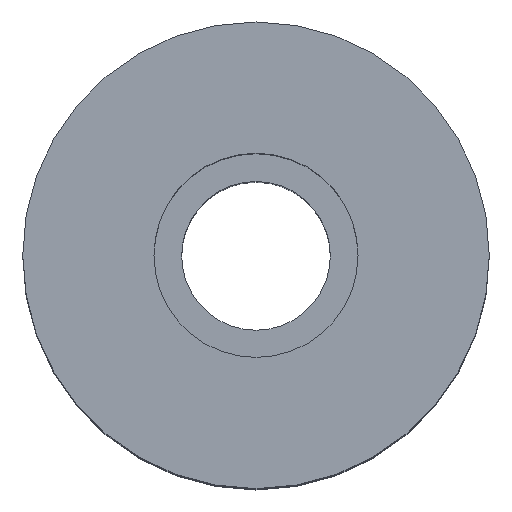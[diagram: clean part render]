
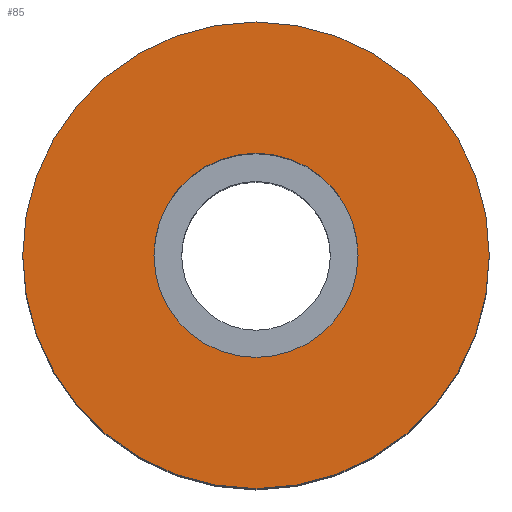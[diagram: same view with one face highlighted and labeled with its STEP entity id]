
A CAD part, top view. The second image highlights one B-rep face of the part: STEP entity #85.
In plain terms, the highlighted planar face has unit normal (0, 0, 1).
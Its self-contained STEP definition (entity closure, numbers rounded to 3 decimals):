
#85=ADVANCED_FACE('',(#132,#133),#134,.T.);
#132=FACE_BOUND('',#183,.T.);
#133=FACE_OUTER_BOUND('',#184,.T.);
#134=PLANE('',#185);
#183=EDGE_LOOP('',(#345,#346));
#184=EDGE_LOOP('',(#347,#348));
#185=AXIS2_PLACEMENT_3D('',#349,#350,#351);
#345=ORIENTED_EDGE('',*,*,#417,.F.);
#346=ORIENTED_EDGE('',*,*,#410,.F.);
#347=ORIENTED_EDGE('',*,*,#414,.T.);
#348=ORIENTED_EDGE('',*,*,#415,.T.);
#349=CARTESIAN_POINT('',(11.5,0.,52.83));
#350=DIRECTION('',(-0.0,0.,1.0));
#351=DIRECTION('',(1.0,0.0,0.0));
#410=EDGE_CURVE('',#492,#488,#494,.T.);
#414=EDGE_CURVE('',#496,#500,#502,.T.);
#415=EDGE_CURVE('',#500,#496,#503,.T.);
#417=EDGE_CURVE('',#488,#492,#505,.T.);
#488=VERTEX_POINT('',#586);
#492=VERTEX_POINT('',#591);
#494=CIRCLE('',#594,7.0);
#496=VERTEX_POINT('',#596);
#500=VERTEX_POINT('',#601);
#502=CIRCLE('',#604,16.0);
#503=CIRCLE('',#605,16.0);
#505=CIRCLE('',#607,7.0);
#586=CARTESIAN_POINT('',(7.0,0.,52.83));
#591=CARTESIAN_POINT('',(-7.0,0.,52.83));
#594=AXIS2_PLACEMENT_3D('',#717,#718,#719);
#596=CARTESIAN_POINT('',(16.0,0.,52.83));
#601=CARTESIAN_POINT('',(-16.0,0.,52.83));
#604=AXIS2_PLACEMENT_3D('',#725,#726,#727);
#605=AXIS2_PLACEMENT_3D('',#728,#729,#730);
#607=AXIS2_PLACEMENT_3D('',#734,#735,#736);
#717=CARTESIAN_POINT('',(0.0,0.,52.83));
#718=DIRECTION('',(-0.0,0.,1.0));
#719=DIRECTION('',(1.0,0.0,0.0));
#725=CARTESIAN_POINT('',(0.0,0.,52.83));
#726=DIRECTION('',(-0.0,0.,1.0));
#727=DIRECTION('',(1.0,0.0,0.0));
#728=CARTESIAN_POINT('',(0.0,0.,52.83));
#729=DIRECTION('',(-0.0,0.,1.0));
#730=DIRECTION('',(1.0,0.0,0.0));
#734=CARTESIAN_POINT('',(0.0,0.,52.83));
#735=DIRECTION('',(-0.0,0.,1.0));
#736=DIRECTION('',(1.0,0.0,0.0));
